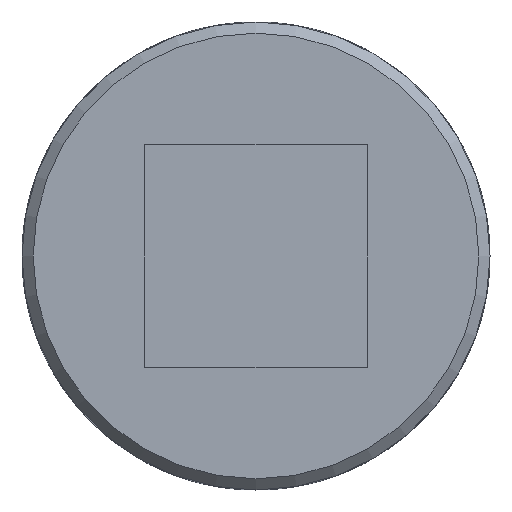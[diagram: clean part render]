
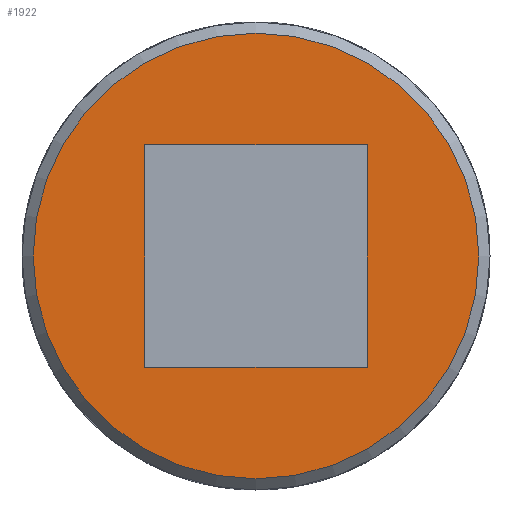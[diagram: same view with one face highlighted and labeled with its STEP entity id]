
A CAD part, front view. The second image highlights one B-rep face of the part: STEP entity #1922.
In plain terms, the highlighted planar face has unit normal (0, -1, 0).
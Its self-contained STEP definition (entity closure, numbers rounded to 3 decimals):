
#112=LINE('',#3582,#176);
#116=LINE('',#3605,#180);
#122=LINE('',#3643,#186);
#125=LINE('',#3663,#189);
#176=VECTOR('',#2499,20.);
#180=VECTOR('',#2507,20.);
#186=VECTOR('',#2515,20.);
#189=VECTOR('',#2522,20.);
#240=PLANE('',#2118);
#421=FACE_BOUND('',#670,.T.);
#517=FACE_OUTER_BOUND('',#669,.T.);
#669=EDGE_LOOP('',(#1675));
#670=EDGE_LOOP('',(#1676,#1677,#1678,#1679));
#774=CIRCLE('',#2116,20.);
#919=VERTEX_POINT('',#3579);
#920=VERTEX_POINT('',#3581);
#926=VERTEX_POINT('',#3604);
#935=VERTEX_POINT('',#3641);
#942=VERTEX_POINT('',#3708);
#1159=EDGE_CURVE('',#920,#919,#112,.T.);
#1166=EDGE_CURVE('',#926,#920,#116,.T.);
#1176=EDGE_CURVE('',#919,#935,#122,.T.);
#1182=EDGE_CURVE('',#935,#926,#125,.T.);
#1193=EDGE_CURVE('',#942,#942,#774,.T.);
#1675=ORIENTED_EDGE('',*,*,#1193,.F.);
#1676=ORIENTED_EDGE('',*,*,#1159,.T.);
#1677=ORIENTED_EDGE('',*,*,#1176,.T.);
#1678=ORIENTED_EDGE('',*,*,#1182,.T.);
#1679=ORIENTED_EDGE('',*,*,#1166,.T.);
#1922=ADVANCED_FACE('',(#517,#421),#240,.F.);
#2116=AXIS2_PLACEMENT_3D('',#3709,#2551,#2552);
#2118=AXIS2_PLACEMENT_3D('',#3933,#2559,#2560);
#2499=DIRECTION('',(0.,0.,-1.));
#2507=DIRECTION('',(1.,0.,0.));
#2515=DIRECTION('',(-1.,0.,0.));
#2522=DIRECTION('',(0.,0.,1.));
#2551=DIRECTION('center_axis',(0.,1.,0.));
#2552=DIRECTION('ref_axis',(1.,0.,0.));
#2559=DIRECTION('center_axis',(0.,1.,0.));
#2560=DIRECTION('ref_axis',(0.,0.,1.));
#3579=CARTESIAN_POINT('',(10.,-51.,-10.));
#3581=CARTESIAN_POINT('',(10.,-51.,10.));
#3582=CARTESIAN_POINT('',(10.,-51.,5.));
#3604=CARTESIAN_POINT('',(-10.,-51.,10.));
#3605=CARTESIAN_POINT('',(-5.,-51.,10.));
#3641=CARTESIAN_POINT('',(-10.,-51.,-10.));
#3643=CARTESIAN_POINT('',(5.,-51.,-10.));
#3663=CARTESIAN_POINT('',(-10.,-51.,-5.));
#3708=CARTESIAN_POINT('',(-20.,-51.,0.));
#3709=CARTESIAN_POINT('Origin',(0.,-51.,0.));
#3933=CARTESIAN_POINT('Origin',(0.,-51.,0.));
